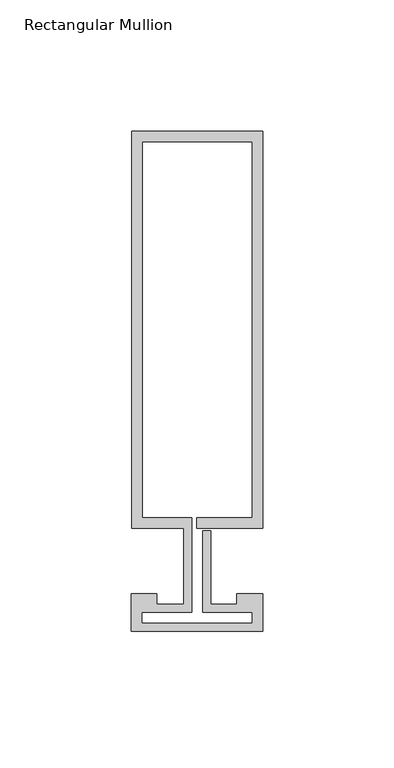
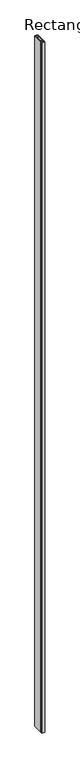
"""IFC4 building model written with IfcOpenShell, lengths in millimetres: member geometry, Rectangular Mullion : Reynaers_CW-50_Mullion-Transom_Horizontal_151.4mm_Facecap-02A."""

import ifcopenshell
import ifcopenshell.guid

model = None  # the IFC model being written
_history = None  # IfcOwnerHistory: only IFC2X3 demands one
_inside = {}  # id of a spatial element -> (the spatial element, [elements in it])
_under = {}  # id of a project, library or spatial element -> (it, [spatial elements below it])
_declared = {}  # id of a project -> (the project, [libraries it declares])
_typed = {}  # id of a type object -> (the type object, [elements of that type])
_made_of = {}  # id of a material, layer set ... -> (it, [elements and type objects made of it])


def new_model(schema):
    """Start an empty IFC model of exactly this schema.

    Asked for "IFC4X3", IfcOpenShell would pick the latest addendum, in which some entities
    have other attributes; the version numbers below select the first issue.
    IFC2X3 requires an IfcOwnerHistory on every rooted entity: one is made here for all.
    """
    global model, _history
    if schema == "IFC4X3":
        model = ifcopenshell.file(schema_version=(4, 3, 0, 0))
    else:
        model = ifcopenshell.file(schema=schema)
    _inside.clear()
    _under.clear()
    _declared.clear()
    _typed.clear()
    _made_of.clear()
    _history = None
    if model.schema == "IFC2X3":
        org = make("IfcOrganization", Name="unknown")
        user = make(
            "IfcPersonAndOrganization",
            ThePerson=make("IfcPerson", FamilyName="unknown"),
            TheOrganization=org,
        )
        app = make(
            "IfcApplication",
            ApplicationDeveloper=org,
            Version="unknown",
            ApplicationFullName="unknown",
            ApplicationIdentifier="unknown",
        )
        _history = make(
            "IfcOwnerHistory",
            OwningUser=user,
            OwningApplication=app,
            ChangeAction="ADDED",
            CreationDate=0,
        )
    return model


def make(cls, **values):
    """One entity of the class cls with the attributes given. An attribute that is None is left unset."""
    return model.create_entity(
        cls, **{name: value for name, value in values.items() if value is not None}
    )


def rooted(cls, **values):
    """An entity with a GlobalId (a new one), such as an element, a storey or a relation."""
    return make(cls, GlobalId=ifcopenshell.guid.new(), OwnerHistory=_history, **values)


def si_unit(unit_type, name, prefix=None):
    """IfcSIUnit, for example si_unit("LENGTHUNIT", "METRE", prefix="MILLI")."""
    return make("IfcSIUnit", UnitType=unit_type, Prefix=prefix, Name=name)


def assignment(units):
    """IfcUnitAssignment: the units of a project."""
    return None if units is None else make("IfcUnitAssignment", Units=units)


def point(xyz):
    """IfcCartesianPoint."""
    return None if xyz is None else make("IfcCartesianPoint", Coordinates=xyz)


def direction(xyz):
    """IfcDirection."""
    return None if xyz is None else make("IfcDirection", DirectionRatios=xyz)


def frame(location, z_axis=None, x_axis=None):
    """IfcAxis2Placement3D, a coordinate frame: its origin and axes. An axis left out is left unset."""
    return make(
        "IfcAxis2Placement3D",
        Location=point(location),
        Axis=direction(z_axis),
        RefDirection=direction(x_axis),
    )


def origin():
    """The frame at (0, 0, 0) with its axes left unset."""
    return frame((0.0, 0.0, 0.0))


def place(relative_to, where):
    """IfcLocalPlacement: puts the frame where relative to a parent placement (None: the world)."""
    return make(
        "IfcLocalPlacement", PlacementRelTo=relative_to, RelativePlacement=where
    )


def context(
    kind, dimensions, precision=None, world=None, true_north=None, identifier=None
):
    """IfcGeometricRepresentationContext, for example the 3D "Model" context."""
    return make(
        "IfcGeometricRepresentationContext",
        ContextIdentifier=identifier,
        ContextType=kind,
        CoordinateSpaceDimension=dimensions,
        Precision=precision,
        WorldCoordinateSystem=world,
        TrueNorth=true_north,
    )


def project(units=None, contexts=None):
    """IfcProject with its units and contexts."""
    return rooted(
        "IfcProject",
        Name="project",
        RepresentationContexts=contexts,
        UnitsInContext=assignment(units),
    )


def spatial(cls, under=None, at=None, **own):
    """A site, building, storey or space (cls), placed at a placement, below another one or the project."""
    s = rooted(cls, ObjectPlacement=at, **own)
    if under is not None:
        _under.setdefault(under.id(), (under, []))[1].append(s)
    return s


def polyline(points):
    """IfcPolyline through the points."""
    return make("IfcPolyline", Points=[point(p) for p in points])


def outline(outer, holes=None, kind="AREA"):
    """IfcArbitraryClosedProfileDef: a profile drawn as a closed curve; with holes, ...WithVoids."""
    if holes is None:
        return make("IfcArbitraryClosedProfileDef", ProfileType=kind, OuterCurve=outer)
    return make(
        "IfcArbitraryProfileDefWithVoids",
        ProfileType=kind,
        OuterCurve=outer,
        InnerCurves=holes,
    )


def extrude(swept, where, along, depth):
    """IfcExtrudedAreaSolid: the profile swept, set in the frame where, extruded along a direction by depth."""
    return make(
        "IfcExtrudedAreaSolid",
        SweptArea=swept,
        Position=where,
        ExtrudedDirection=direction(along),
        Depth=depth,
    )


def shape(context_of_items, identifier, shape_type, items):
    """IfcShapeRepresentation: the items that make up one representation, for example the "Body"."""
    return make(
        "IfcShapeRepresentation",
        ContextOfItems=context_of_items,
        RepresentationIdentifier=identifier,
        RepresentationType=shape_type,
        Items=items,
    )


def source(mapping_origin, context_of_items, identifier, shape_type, items):
    """IfcRepresentationMap: a shape defined once, which mapped items show again and again."""
    return make(
        "IfcRepresentationMap",
        MappingOrigin=mapping_origin,
        MappedRepresentation=shape(context_of_items, identifier, shape_type, items),
    )


def transform(
    local_origin,
    x_axis=None,
    y_axis=None,
    z_axis=None,
    scale=None,
    scale2=None,
    scale3=None,
    uniform=True,
):
    """IfcCartesianTransformationOperator3D, or its non-uniform kind. x_axis, y_axis, z_axis: its Axis1, 2, 3."""
    if uniform:
        return make(
            "IfcCartesianTransformationOperator3D",
            Axis1=direction(x_axis),
            Axis2=direction(y_axis),
            LocalOrigin=point(local_origin),
            Scale=scale,
            Axis3=direction(z_axis),
        )
    return make(
        "IfcCartesianTransformationOperator3DnonUniform",
        Axis1=direction(x_axis),
        Axis2=direction(y_axis),
        LocalOrigin=point(local_origin),
        Scale=scale,
        Axis3=direction(z_axis),
        Scale2=scale2,
        Scale3=scale3,
    )


def mapped(mapping_source, mapping_target):
    """IfcMappedItem: shows the shape of a source again, moved by a transform."""
    return make(
        "IfcMappedItem", MappingSource=mapping_source, MappingTarget=mapping_target
    )


def made_of(thing, what):
    """Note that an element or type object is made of a material, layer set ...; save() writes the relation."""
    if what is not None:
        _made_of.setdefault(what.id(), (what, []))[1].append(thing)
    return thing


def element(
    cls,
    number,
    at=None,
    inside=None,
    cuts=None,
    type_object=None,
    material=None,
    context=None,
    identifier="Body",
    shape_type=None,
    held_by="IfcProductDefinitionShape",
    body=None,
    shapes=None,
    **own,
):
    """One element of the class cls, such as IfcWall. Its Tag is "e" and its number.

    at: its placement. inside: the storey or other place that contains it. cuts: it is an
    opening in that element (IfcRelVoidsElement). A single representation is given by context,
    identifier, shape_type and body (its items); several are given by shapes. held_by: the class
    of the entity that holds the representations. save() writes the other relations.
    """
    e = rooted(cls, Tag="e%d" % number, ObjectPlacement=at, **own)
    if body is not None:
        shapes = [shape(context, identifier, shape_type, body)]
    if shapes is not None:
        e.Representation = make(held_by, Representations=shapes)
    if inside is not None:
        _inside.setdefault(inside.id(), (inside, []))[1].append(e)
    if cuts is not None:
        rooted(
            "IfcRelVoidsElement", RelatingBuildingElement=cuts, RelatedOpeningElement=e
        )
    if type_object is not None:
        _typed.setdefault(type_object.id(), (type_object, []))[1].append(e)
    return made_of(e, material)


def aggregate(whole, parts):
    """IfcRelAggregates: a whole, such as a stair, and the parts it consists of."""
    return rooted("IfcRelAggregates", RelatingObject=whole, RelatedObjects=parts)


def save(model, path):
    """Write the relations noted so far, then the file.

    IfcRelAggregates (storeys below a building ...), IfcRelContainedInSpatialStructure (elements
    in a storey), IfcRelDefinesByType, IfcRelAssociatesMaterial and IfcRelDeclares: one each for
    every whole, place, type object, material and project.
    """
    for whole, parts in _under.values():
        aggregate(whole, parts)
    for where, things in _inside.values():
        rooted(
            "IfcRelContainedInSpatialStructure",
            RelatedElements=things,
            RelatingStructure=where,
        )
    for kind, things in _typed.values():
        rooted("IfcRelDefinesByType", RelatedObjects=things, RelatingType=kind)
    for what, things in _made_of.values():
        rooted("IfcRelAssociatesMaterial", RelatedObjects=things, RelatingMaterial=what)
    for by, libraries in _declared.values():
        rooted("IfcRelDeclares", RelatingContext=by, RelatedDefinitions=libraries)
    model.write(path)


def rectangular_mullion_c63524a1(model_context):
    return source(origin(), model_context, "Body", "SweptSolid", [
        extrude(outline(polyline([(-24.8004059, 163.9), (25.1995941, 163.9), (25.1995941, 12.5), (0.0, 12.5), (0.0, 16.5), (21.1995941, 16.5), (21.1995941, 159.9), (-20.8004059, 159.9), (-20.8004059, 16.5), (-1.9004059, 16.5), (-1.9004059, -19.5), (-20.994845, -19.5), (-20.994845, -23.7191338), (21.1995941, -23.7191338), (21.1995941, -19.5), (2.2995941, -19.5), (2.2995941, 11.5), (5.2995941, 11.5), (5.2995941, -16.5), (15.2996495, -16.5), (15.2996495, -12.5), (25.1995941, -12.5), (25.1995941, -26.8), (-24.994845, -26.8), (-24.994845, -12.5), (-15.2996495, -12.5), (-15.2996495, -16.5), (-4.9004059, -16.5), (-4.9004059, 12.5), (-24.8004059, 12.5), (-24.8004059, 163.9)])), frame((0.0, 0.0, -12000.0), z_axis=(0.0, 0.0, 1.0), x_axis=(1.0, 0.0, 0.0)), (0.0, 0.0, 1.0), 12000.0),
    ])


if __name__ == "__main__":
    model = new_model("IFC4")
    model_context = context("Model", 3, world=origin())
    ifc_project = project(units=[si_unit("LENGTHUNIT", "METRE", prefix="MILLI")], contexts=[model_context])
    site = spatial("IfcSite", under=ifc_project)
    building = spatial("IfcBuilding", under=site)
    placement = place(None, origin())
    rectangular_mullion_shape = rectangular_mullion_c63524a1(model_context)
    element("IfcMember", 1, ObjectType="Rectangular Mullion : Reynaers_CW-50_Mullion-Transom_Horizontal_151.4mm_Facecap-02A", at=placement, inside=building, context=model_context, shape_type="MappedRepresentation", body=[
        mapped(rectangular_mullion_shape, transform((0.0, 0.0, 0.0), x_axis=(1.0, 0.0, 0.0), y_axis=(0.0, 1.0, 0.0), z_axis=(0.0, 0.0, 1.0))),
    ])
    save(model, "model.ifc")
